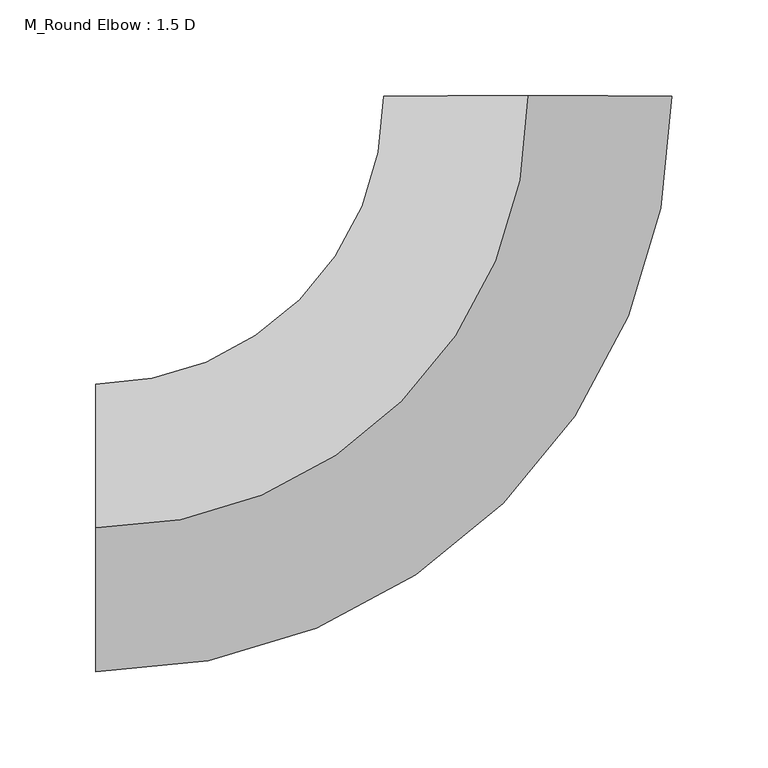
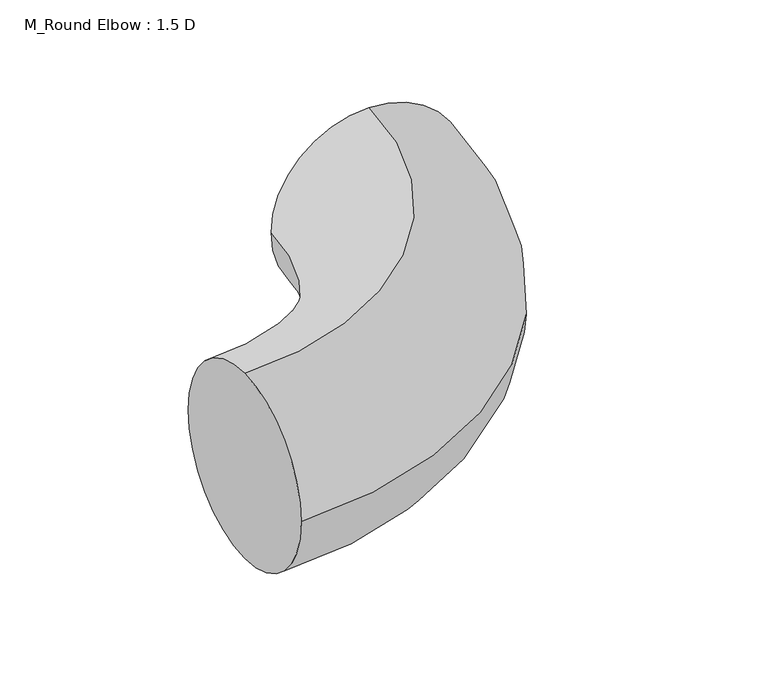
"""IFC4 building model written with IfcOpenShell, lengths in millimetres: duct fitting geometry, M_Round Elbow : 1.5 D."""

from ifc_helpers import new_model, si_unit, point, frame, origin, place, context, project, spatial, circle_curve, ellipse_curve, trimmed, source, transform, mapped, element, save
from ifc_brep_helpers import plane_surface, revolved_surface, advanced_brep


def m_round_elbow_1_5_d_91200b3d(model_context):
    return source(origin(), model_context, "Body", "AdvancedBrep", [
        advanced_brep(
        [(-225.0023127, 0.0, 75.0), (-225.0023127, 75.0, 0.0), (-225.0023127, 0.0, -75.0), (-225.0023127, -75.0, 0.0), (-0.0023127, 225.0023127, 75.0), (74.9976873, 225.0030836, 0.0), (-0.0023127, 225.0023127, -75.0), (-75.0023127, 225.0015418, 0.0)],
        [
            (0, 1, circle_curve(frame((-225.0023127, 0.0, 0.0), z_axis=(-1.0, 0.0, 0.0), x_axis=(0.0, 1.0, 0.0)), 75.0)),
            (1, 2, circle_curve(frame((-225.0023127, 0.0, 0.0), z_axis=(-1.0, 0.0, 0.0), x_axis=(0.0, 1.0, 0.0)), 75.0)),
            (2, 3, circle_curve(frame((-225.0023127, 0.0, 0.0), z_axis=(-1.0, 0.0, 0.0), x_axis=(0.0, 1.0, 0.0)), 75.0)),
            (3, 0, circle_curve(frame((-225.0023127, 0.0, 0.0), z_axis=(-1.0, 0.0, 0.0), x_axis=(0.0, 1.0, 0.0)), 75.0)),
            (4, 5, circle_curve(frame((-0.0023127, 225.0023127, 0.0), z_axis=(-1.027857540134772e-05, 0.9999999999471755, 0.0), x_axis=(-0.9999999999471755, -1.027857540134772e-05, 0.0)), 75.0)),
            (5, 6, circle_curve(frame((-0.0023127, 225.0023127, 0.0), z_axis=(-1.027857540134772e-05, 0.9999999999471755, 0.0), x_axis=(-0.9999999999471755, -1.027857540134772e-05, 0.0)), 75.0)),
            (6, 7, circle_curve(frame((-0.0023127, 225.0023127, 0.0), z_axis=(-1.027857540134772e-05, 0.9999999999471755, 0.0), x_axis=(-0.9999999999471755, -1.027857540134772e-05, 0.0)), 75.0)),
            (7, 4, circle_curve(frame((-0.0023127, 225.0023127, 0.0), z_axis=(-1.027857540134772e-05, 0.9999999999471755, 0.0), x_axis=(-0.9999999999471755, -1.027857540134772e-05, 0.0)), 75.0)),
            (7, 1, circle_curve(frame((-225.0023127, 225.0, 0.0), z_axis=(0.0, 0.0, -1.0), x_axis=(0.0, -1.0, 0.0)), 150.0)),
            (0, 4, circle_curve(frame((-225.0023127, 225.0, 75.0), z_axis=(0.0, 0.0, 1.0), x_axis=(0.0, -1.0, 0.0)), 225.0)),
            (6, 2, circle_curve(frame((-225.0023127, 225.0, -75.0), z_axis=(0.0, 0.0, -1.0), x_axis=(0.0, -1.0, 0.0)), 225.0)),
            (5, 3, circle_curve(frame((-225.0023127, 225.0, 0.0), z_axis=(0.0, 0.0, -1.0), x_axis=(0.0, -1.0, 0.0)), 300.0)),
        ],
        [
            plane_surface(frame((-225.0023127, 0.0, 0.0), z_axis=(-1.0, 0.0, 0.0), x_axis=(0.0, 0.0, 1.0))),
            plane_surface(frame((-0.0023127, 225.0023127, 0.0), z_axis=(-1.0278575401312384e-05, 0.9999999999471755, 0.0), x_axis=(0.0, 0.0, 1.0))),
            revolved_surface(trimmed(ellipse_curve(frame((-225.0023127, 0.0, 0.0), z_axis=(-1.0, 0.0, 0.0), x_axis=(0.0, 1.0, 0.0)), 75.0, 75.0), [point((-225.0023127, 0.0, 75.0))], [point((-225.0023127, 75.0, 0.0))], True, "CARTESIAN"), (-225.0023127, 225.0, 0.0), (0.0, 0.0, 1.0)),
            revolved_surface(trimmed(ellipse_curve(frame((-225.0023127, 0.0, 0.0), z_axis=(-1.0, 0.0, 0.0), x_axis=(0.0, 1.0, 0.0)), 75.0, 75.0), [point((-225.0023127, 75.0, 0.0))], [point((-225.0023127, 0.0, -75.0))], True, "CARTESIAN"), (-225.0023127, 225.0, 0.0), (0.0, 0.0, 1.0)),
            revolved_surface(trimmed(ellipse_curve(frame((-225.0023127, 0.0, 0.0), z_axis=(-1.0, 0.0, 0.0), x_axis=(0.0, 1.0, 0.0)), 75.0, 75.0), [point((-225.0023127, 0.0, -75.0))], [point((-225.0023127, -75.0, 0.0))], True, "CARTESIAN"), (-225.0023127, 225.0, 0.0), (0.0, 0.0, 1.0)),
            revolved_surface(trimmed(ellipse_curve(frame((-225.0023127, 0.0, 0.0), z_axis=(-1.0, 0.0, 0.0), x_axis=(0.0, 1.0, 0.0)), 75.0, 75.0), [point((-225.0023127, -75.0, 0.0))], [point((-225.0023127, 0.0, 75.0))], True, "CARTESIAN"), (-225.0023127, 225.0, 0.0), (0.0, 0.0, 1.0)),
        ],
        [
            (0, [[1, 2, 3, 4]]),
            (1, [[5, 6, 7, 8]]),
            (2, [[9, -1, 10, -8]]),
            (3, [[11, -2, -9, -7]]),
            (4, [[12, -3, -11, -6]]),
            (5, [[-10, -4, -12, -5]]),
        ],
    ),
        advanced_brep(
        [(-225.0023127, 0.0, 75.0), (-225.0023127, 75.0, 0.0), (-225.0023127, 0.0, -75.0), (-225.0023127, -75.0, 0.0), (-0.0023127, 225.0023127, 75.0), (74.9976873, 225.0030836, 0.0), (-0.0023127, 225.0023127, -75.0), (-75.0023127, 225.0015418, 0.0)],
        [
            (0, 1, circle_curve(frame((-225.0023127, 0.0, 0.0), z_axis=(-1.0, 0.0, 0.0), x_axis=(0.0, 1.0, 0.0)), 75.0)),
            (1, 2, circle_curve(frame((-225.0023127, 0.0, 0.0), z_axis=(-1.0, 0.0, 0.0), x_axis=(0.0, 1.0, 0.0)), 75.0)),
            (2, 3, circle_curve(frame((-225.0023127, 0.0, 0.0), z_axis=(-1.0, 0.0, 0.0), x_axis=(0.0, 1.0, 0.0)), 75.0)),
            (3, 0, circle_curve(frame((-225.0023127, 0.0, 0.0), z_axis=(-1.0, 0.0, 0.0), x_axis=(0.0, 1.0, 0.0)), 75.0)),
            (4, 5, circle_curve(frame((-0.0023127, 225.0023127, 0.0), z_axis=(-1.027857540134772e-05, 0.9999999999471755, 0.0), x_axis=(-0.9999999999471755, -1.027857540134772e-05, 0.0)), 75.0)),
            (5, 6, circle_curve(frame((-0.0023127, 225.0023127, 0.0), z_axis=(-1.027857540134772e-05, 0.9999999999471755, 0.0), x_axis=(-0.9999999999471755, -1.027857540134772e-05, 0.0)), 75.0)),
            (6, 7, circle_curve(frame((-0.0023127, 225.0023127, 0.0), z_axis=(-1.027857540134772e-05, 0.9999999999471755, 0.0), x_axis=(-0.9999999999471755, -1.027857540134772e-05, 0.0)), 75.0)),
            (7, 4, circle_curve(frame((-0.0023127, 225.0023127, 0.0), z_axis=(-1.027857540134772e-05, 0.9999999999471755, 0.0), x_axis=(-0.9999999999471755, -1.027857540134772e-05, 0.0)), 75.0)),
            (7, 1, circle_curve(frame((-225.0023127, 225.0, 0.0), z_axis=(0.0, 0.0, -1.0), x_axis=(0.0, -1.0, 0.0)), 150.0)),
            (0, 4, circle_curve(frame((-225.0023127, 225.0, 75.0), z_axis=(0.0, 0.0, 1.0), x_axis=(0.0, -1.0, 0.0)), 225.0)),
            (6, 2, circle_curve(frame((-225.0023127, 225.0, -75.0), z_axis=(0.0, 0.0, -1.0), x_axis=(0.0, -1.0, 0.0)), 225.0)),
            (5, 3, circle_curve(frame((-225.0023127, 225.0, 0.0), z_axis=(0.0, 0.0, -1.0), x_axis=(0.0, -1.0, 0.0)), 300.0)),
        ],
        [
            plane_surface(frame((-225.0023127, 0.0, 0.0), z_axis=(-1.0, 0.0, 0.0), x_axis=(0.0, 0.0, 1.0))),
            plane_surface(frame((-0.0023127, 225.0023127, 0.0), z_axis=(-1.0278575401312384e-05, 0.9999999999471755, 0.0), x_axis=(0.0, 0.0, 1.0))),
            revolved_surface(trimmed(ellipse_curve(frame((-225.0023127, 0.0, 0.0), z_axis=(-1.0, 0.0, 0.0), x_axis=(0.0, 1.0, 0.0)), 75.0, 75.0), [point((-225.0023127, 0.0, 75.0))], [point((-225.0023127, 75.0, 0.0))], True, "CARTESIAN"), (-225.0023127, 225.0, 0.0), (0.0, 0.0, 1.0)),
            revolved_surface(trimmed(ellipse_curve(frame((-225.0023127, 0.0, 0.0), z_axis=(-1.0, 0.0, 0.0), x_axis=(0.0, 1.0, 0.0)), 75.0, 75.0), [point((-225.0023127, 75.0, 0.0))], [point((-225.0023127, 0.0, -75.0))], True, "CARTESIAN"), (-225.0023127, 225.0, 0.0), (0.0, 0.0, 1.0)),
            revolved_surface(trimmed(ellipse_curve(frame((-225.0023127, 0.0, 0.0), z_axis=(-1.0, 0.0, 0.0), x_axis=(0.0, 1.0, 0.0)), 75.0, 75.0), [point((-225.0023127, 0.0, -75.0))], [point((-225.0023127, -75.0, 0.0))], True, "CARTESIAN"), (-225.0023127, 225.0, 0.0), (0.0, 0.0, 1.0)),
            revolved_surface(trimmed(ellipse_curve(frame((-225.0023127, 0.0, 0.0), z_axis=(-1.0, 0.0, 0.0), x_axis=(0.0, 1.0, 0.0)), 75.0, 75.0), [point((-225.0023127, -75.0, 0.0))], [point((-225.0023127, 0.0, 75.0))], True, "CARTESIAN"), (-225.0023127, 225.0, 0.0), (0.0, 0.0, 1.0)),
        ],
        [
            (0, [[1, 2, 3, 4]]),
            (1, [[5, 6, 7, 8]]),
            (2, [[9, -1, 10, -8]]),
            (3, [[11, -2, -9, -7]]),
            (4, [[12, -3, -11, -6]]),
            (5, [[-10, -4, -12, -5]]),
        ],
    ),
        advanced_brep(
        [(-225.0023127, 0.0, 75.0), (-225.0023127, 75.0, 0.0), (-225.0023127, 0.0, -75.0), (-225.0023127, -75.0, 0.0), (-0.0023127, 225.0023127, 75.0), (74.9976873, 225.0030836, 0.0), (-0.0023127, 225.0023127, -75.0), (-75.0023127, 225.0015418, 0.0)],
        [
            (0, 1, circle_curve(frame((-225.0023127, 0.0, 0.0), z_axis=(-1.0, 0.0, 0.0), x_axis=(0.0, 1.0, 0.0)), 75.0)),
            (1, 2, circle_curve(frame((-225.0023127, 0.0, 0.0), z_axis=(-1.0, 0.0, 0.0), x_axis=(0.0, 1.0, 0.0)), 75.0)),
            (2, 3, circle_curve(frame((-225.0023127, 0.0, 0.0), z_axis=(-1.0, 0.0, 0.0), x_axis=(0.0, 1.0, 0.0)), 75.0)),
            (3, 0, circle_curve(frame((-225.0023127, 0.0, 0.0), z_axis=(-1.0, 0.0, 0.0), x_axis=(0.0, 1.0, 0.0)), 75.0)),
            (4, 5, circle_curve(frame((-0.0023127, 225.0023127, 0.0), z_axis=(-1.027857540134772e-05, 0.9999999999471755, 0.0), x_axis=(-0.9999999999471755, -1.027857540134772e-05, 0.0)), 75.0)),
            (5, 6, circle_curve(frame((-0.0023127, 225.0023127, 0.0), z_axis=(-1.027857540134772e-05, 0.9999999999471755, 0.0), x_axis=(-0.9999999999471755, -1.027857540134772e-05, 0.0)), 75.0)),
            (6, 7, circle_curve(frame((-0.0023127, 225.0023127, 0.0), z_axis=(-1.027857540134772e-05, 0.9999999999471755, 0.0), x_axis=(-0.9999999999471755, -1.027857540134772e-05, 0.0)), 75.0)),
            (7, 4, circle_curve(frame((-0.0023127, 225.0023127, 0.0), z_axis=(-1.027857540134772e-05, 0.9999999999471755, 0.0), x_axis=(-0.9999999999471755, -1.027857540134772e-05, 0.0)), 75.0)),
            (7, 1, circle_curve(frame((-225.0023127, 225.0, 0.0), z_axis=(0.0, 0.0, -1.0), x_axis=(0.0, -1.0, 0.0)), 150.0)),
            (0, 4, circle_curve(frame((-225.0023127, 225.0, 75.0), z_axis=(0.0, 0.0, 1.0), x_axis=(0.0, -1.0, 0.0)), 225.0)),
            (6, 2, circle_curve(frame((-225.0023127, 225.0, -75.0), z_axis=(0.0, 0.0, -1.0), x_axis=(0.0, -1.0, 0.0)), 225.0)),
            (5, 3, circle_curve(frame((-225.0023127, 225.0, 0.0), z_axis=(0.0, 0.0, -1.0), x_axis=(0.0, -1.0, 0.0)), 300.0)),
        ],
        [
            plane_surface(frame((-225.0023127, 0.0, 0.0), z_axis=(-1.0, 0.0, 0.0), x_axis=(0.0, 0.0, 1.0))),
            plane_surface(frame((-0.0023127, 225.0023127, 0.0), z_axis=(-1.0278575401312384e-05, 0.9999999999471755, 0.0), x_axis=(0.0, 0.0, 1.0))),
            revolved_surface(trimmed(ellipse_curve(frame((-225.0023127, 0.0, 0.0), z_axis=(-1.0, 0.0, 0.0), x_axis=(0.0, 1.0, 0.0)), 75.0, 75.0), [point((-225.0023127, 0.0, 75.0))], [point((-225.0023127, 75.0, 0.0))], True, "CARTESIAN"), (-225.0023127, 225.0, 0.0), (0.0, 0.0, 1.0)),
            revolved_surface(trimmed(ellipse_curve(frame((-225.0023127, 0.0, 0.0), z_axis=(-1.0, 0.0, 0.0), x_axis=(0.0, 1.0, 0.0)), 75.0, 75.0), [point((-225.0023127, 75.0, 0.0))], [point((-225.0023127, 0.0, -75.0))], True, "CARTESIAN"), (-225.0023127, 225.0, 0.0), (0.0, 0.0, 1.0)),
            revolved_surface(trimmed(ellipse_curve(frame((-225.0023127, 0.0, 0.0), z_axis=(-1.0, 0.0, 0.0), x_axis=(0.0, 1.0, 0.0)), 75.0, 75.0), [point((-225.0023127, 0.0, -75.0))], [point((-225.0023127, -75.0, 0.0))], True, "CARTESIAN"), (-225.0023127, 225.0, 0.0), (0.0, 0.0, 1.0)),
            revolved_surface(trimmed(ellipse_curve(frame((-225.0023127, 0.0, 0.0), z_axis=(-1.0, 0.0, 0.0), x_axis=(0.0, 1.0, 0.0)), 75.0, 75.0), [point((-225.0023127, -75.0, 0.0))], [point((-225.0023127, 0.0, 75.0))], True, "CARTESIAN"), (-225.0023127, 225.0, 0.0), (0.0, 0.0, 1.0)),
        ],
        [
            (0, [[1, 2, 3, 4]]),
            (1, [[5, 6, 7, 8]]),
            (2, [[9, -1, 10, -8]]),
            (3, [[11, -2, -9, -7]]),
            (4, [[12, -3, -11, -6]]),
            (5, [[-10, -4, -12, -5]]),
        ],
    ),
    ])


if __name__ == "__main__":
    model = new_model("IFC4")
    model_context = context("Model", 3, world=origin())
    ifc_project = project(units=[si_unit("LENGTHUNIT", "METRE", prefix="MILLI")], contexts=[model_context])
    site = spatial("IfcSite", under=ifc_project)
    building = spatial("IfcBuilding", under=site)
    placement = place(None, origin())
    m_round_elbow_1_5_d_shape = m_round_elbow_1_5_d_91200b3d(model_context)
    element("IfcDuctFitting", 1, ObjectType="M_Round Elbow : 1.5 D", at=placement, inside=building, context=model_context, shape_type="MappedRepresentation", body=[
        mapped(m_round_elbow_1_5_d_shape, transform((0.0, 0.0, 0.0), x_axis=(1.0, 0.0, 0.0), y_axis=(0.0, 1.0, 0.0), z_axis=(0.0, 0.0, 1.0))),
    ])
    save(model, "model.ifc")
